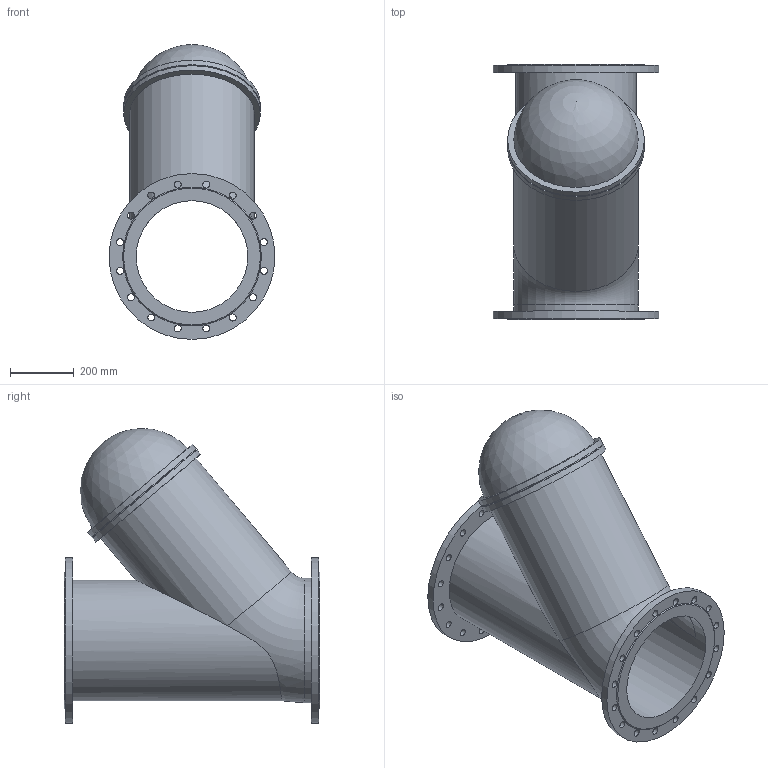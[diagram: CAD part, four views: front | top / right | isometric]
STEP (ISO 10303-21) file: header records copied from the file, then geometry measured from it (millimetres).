
FILE_DESCRIPTION(('STEP AP203'), '1');
FILE_NAME('Êëàïàí îáðàòíûé øàðîâîé ôëàíöåâûé 012F DN350', '', ('UNSPECIFIED'), ('UNSPECIFIED'), 'ASCON STEP Converter 1.6', 'ASCON Math Kernel', '');
FILE_SCHEMA(('CONFIG_CONTROL_DESIGN'));
Length unit declared in the file: millimetre
Bounding box: 520 x 800 x 924.52 mm (x, y, z)
Volume: 46100062 mm3; surface area: 3453876.6 mm2
Topology: 1 solids, 1 shells, 60 faces, 153 edges, 102 vertices
Faces by surface type: cylinder 43, plane 12, torus 2, cone 2, sphere 1
Full cylindrical faces by diameter (mm): 22 x32, 350 x2, 378 x1, 390 x2, 415 x1, 429 x2, 520 x2
Entity records: 2669 total; most frequent: CARTESIAN_POINT 685, DIRECTION 312, ORIENTED_EDGE 210, EDGE_LOOP 180, AXIS2_PLACEMENT_3D 156, EDGE_CURVE 105, VERTEX_POINT 101, CIRCLE 95
